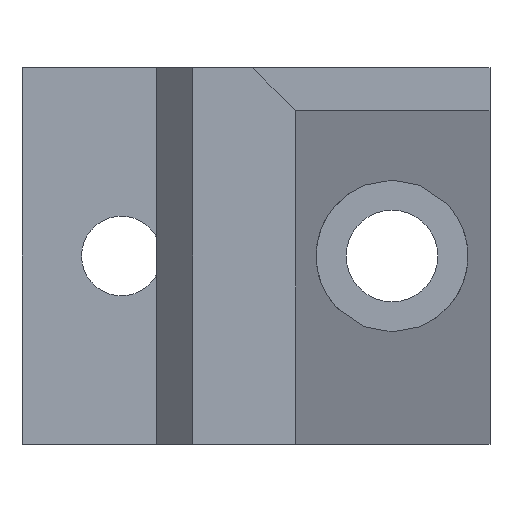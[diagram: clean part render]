
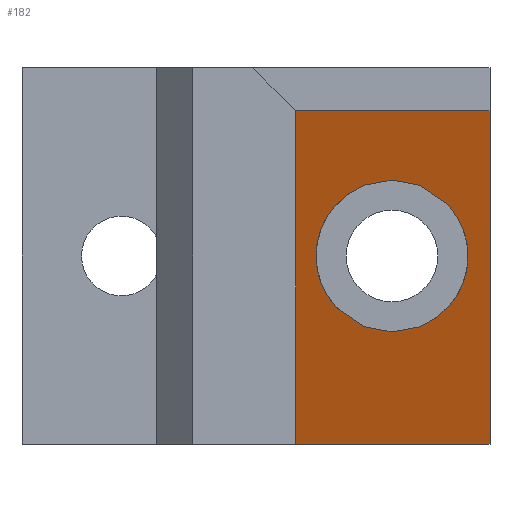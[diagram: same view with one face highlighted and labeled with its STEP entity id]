
A CAD part, front view. The second image highlights one B-rep face of the part: STEP entity #182.
In plain terms, the highlighted planar face has unit normal (0.967, -0.254, 0).
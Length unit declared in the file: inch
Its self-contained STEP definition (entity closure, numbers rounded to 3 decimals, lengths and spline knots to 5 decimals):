
#28 =( BOUNDED_CURVE ( )  B_SPLINE_CURVE ( 3, ( #759, #765, #768, #772 ),
 .UNSPECIFIED., .F., .F. ) 
 B_SPLINE_CURVE_WITH_KNOTS ( ( 4, 4 ),
 ( 1.5708, 4.71239 ),
 .UNSPECIFIED. ) 
 CURVE ( )  GEOMETRIC_REPRESENTATION_ITEM ( )  RATIONAL_B_SPLINE_CURVE ( ( 1., 0.333, 0.333, 1. ) ) 
 REPRESENTATION_ITEM ( '' )  );
#29 = EDGE_CURVE ( 'NONE', #77, #977, #199, .T. ) ;
#40 = FACE_OUTER_BOUND ( 'NONE', #970, .T. ) ;
#41 = VERTEX_POINT ( 'NONE', #1012 ) ;
#55 = CARTESIAN_POINT ( 'NONE',  ( -2.66152, -0.37704, 0.9225 ) ) ;
#77 = VERTEX_POINT ( 'NONE', #914 ) ;
#93 = FACE_BOUND ( 'NONE', #1022, .T. ) ;
#98 = EDGE_CURVE ( 'NONE', #467, #41, #1203, .T. ) ;
#143 = VERTEX_POINT ( 'NONE', #1197 ) ;
#182 = ADVANCED_FACE ( 'NONE', ( #93, #40 ), #401, .F. ) ;
#199 = LINE ( 'NONE', #345, #420 ) ;
#214 = ORIENTED_EDGE ( 'NONE', *, *, #253, .T. ) ;
#229 = LINE ( 'NONE', #629, #300 ) ;
#253 = EDGE_CURVE ( 'NONE', #685, #143, #868, .T. ) ;
#268 = VECTOR ( 'NONE', #829, 39.37008 ) ;
#273 = ORIENTED_EDGE ( 'NONE', *, *, #980, .T. ) ;
#300 = VECTOR ( 'NONE', #593, 39.37008 ) ;
#338 = DIRECTION ( 'NONE',  ( 0., 0., -1. ) ) ;
#343 = AXIS2_PLACEMENT_3D ( 'NONE', #861, #880, #508 ) ;
#345 = CARTESIAN_POINT ( 'NONE',  ( -3.19252, -2.40102, 1.315 ) ) ;
#359 = EDGE_CURVE ( 'NONE', #977, #41, #229, .T. ) ;
#401 = PLANE ( 'NONE',  #343 ) ;
#415 = CARTESIAN_POINT ( 'NONE',  ( -2.31952, 0.92654, 1.165 ) ) ;
#420 = VECTOR ( 'NONE', #338, 39.37008 ) ;
#467 = VERTEX_POINT ( 'NONE', #415 ) ;
#508 = DIRECTION ( 'NONE',  ( -0.254, -0.967, 0. ) ) ;
#527 = CARTESIAN_POINT ( 'NONE',  ( -2.66152, -0.37704, 0.9225 ) ) ;
#552 = DIRECTION ( 'NONE',  ( -0.254, -0.967, 0. ) ) ;
#586 = EDGE_CURVE ( 'NONE', #467, #77, #1076, .T. ) ;
#593 = DIRECTION ( 'NONE',  ( 0.254, 0.967, 0. ) ) ;
#629 = CARTESIAN_POINT ( 'NONE',  ( -2.32126, 0.91994, 0. ) ) ;
#668 = ORIENTED_EDGE ( 'NONE', *, *, #586, .T. ) ;
#685 = VERTEX_POINT ( 'NONE', #55 ) ;
#700 = CARTESIAN_POINT ( 'NONE',  ( -3.19252, -2.40102, 0. ) ) ;
#759 = CARTESIAN_POINT ( 'NONE',  ( -2.66152, -0.37704, 0.3925 ) ) ;
#765 = CARTESIAN_POINT ( 'NONE',  ( -3.19152, -2.39721, 0.3925 ) ) ;
#768 = CARTESIAN_POINT ( 'NONE',  ( -3.19152, -2.39721, 0.9225 ) ) ;
#772 = CARTESIAN_POINT ( 'NONE',  ( -2.66152, -0.37704, 0.9225 ) ) ;
#829 = DIRECTION ( 'NONE',  ( 0., 0., -1. ) ) ;
#861 = CARTESIAN_POINT ( 'NONE',  ( -2.32126, 0.91994, 1.315 ) ) ;
#868 =( BOUNDED_CURVE ( )  B_SPLINE_CURVE ( 3, ( #527, #995, #1138, #1080 ),
 .UNSPECIFIED., .F., .F. ) 
 B_SPLINE_CURVE_WITH_KNOTS ( ( 4, 4 ),
 ( 4.71239, 7.85398 ),
 .UNSPECIFIED. ) 
 CURVE ( )  GEOMETRIC_REPRESENTATION_ITEM ( )  RATIONAL_B_SPLINE_CURVE ( ( 1., 0.333, 0.333, 1. ) ) 
 REPRESENTATION_ITEM ( '' )  );
#880 = DIRECTION ( 'NONE',  ( -0.967, 0.254, 0. ) ) ;
#914 = CARTESIAN_POINT ( 'NONE',  ( -3.19252, -2.40102, 1.165 ) ) ;
#917 = ORIENTED_EDGE ( 'NONE', *, *, #98, .F. ) ;
#951 = ORIENTED_EDGE ( 'NONE', *, *, #29, .T. ) ;
#970 = EDGE_LOOP ( 'NONE', ( #917, #668, #951, #1186 ) ) ;
#977 = VERTEX_POINT ( 'NONE', #700 ) ;
#980 = EDGE_CURVE ( 'NONE', #143, #685, #28, .T. ) ;
#995 = CARTESIAN_POINT ( 'NONE',  ( -2.13152, 1.64313, 0.9225 ) ) ;
#1012 = CARTESIAN_POINT ( 'NONE',  ( -2.31952, 0.92654, 0. ) ) ;
#1020 = CARTESIAN_POINT ( 'NONE',  ( -3.19252, -2.40102, 1.165 ) ) ;
#1021 = CARTESIAN_POINT ( 'NONE',  ( -2.31952, 0.92654, 1.315 ) ) ;
#1022 = EDGE_LOOP ( 'NONE', ( #214, #273 ) ) ;
#1076 = LINE ( 'NONE', #1020, #1123 ) ;
#1080 = CARTESIAN_POINT ( 'NONE',  ( -2.66152, -0.37704, 0.3925 ) ) ;
#1123 = VECTOR ( 'NONE', #552, 39.37008 ) ;
#1138 = CARTESIAN_POINT ( 'NONE',  ( -2.13152, 1.64313, 0.3925 ) ) ;
#1186 = ORIENTED_EDGE ( 'NONE', *, *, #359, .T. ) ;
#1197 = CARTESIAN_POINT ( 'NONE',  ( -2.66152, -0.37704, 0.3925 ) ) ;
#1203 = LINE ( 'NONE', #1021, #268 ) ;
